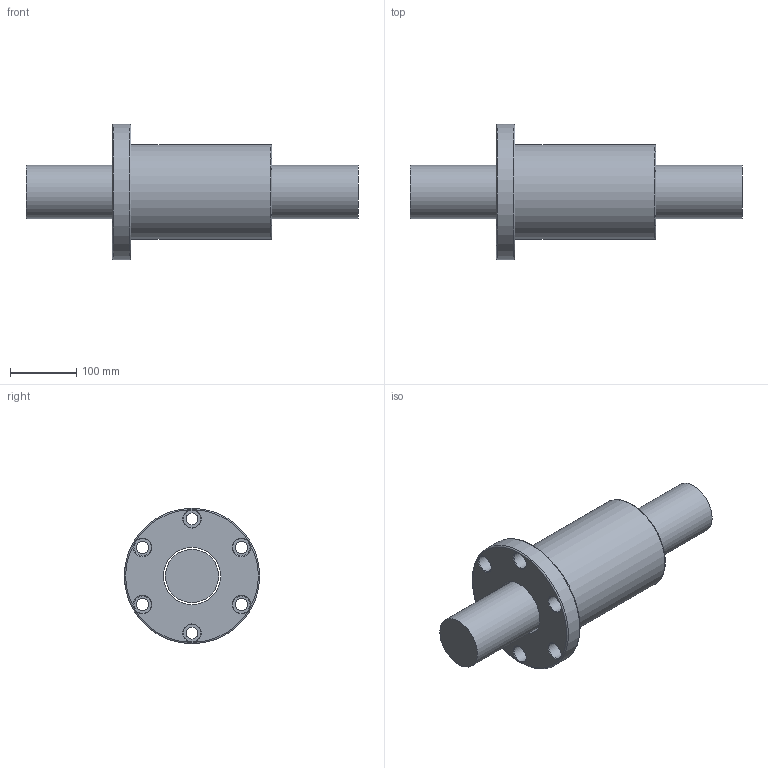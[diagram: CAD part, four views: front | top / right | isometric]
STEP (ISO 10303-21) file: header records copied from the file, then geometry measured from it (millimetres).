
FILE_DESCRIPTION (( 'STEP AP203' ), '1' );
FILE_NAME ('SFV08020N-7.6.step', '2024-05-20T03:40:51', ( '' ), ( '' ), 'SwSTEP 2.0', 'SolidWorks 2022', '' );
FILE_SCHEMA (( 'CONFIG_CONTROL_DESIGN' ));
Length unit declared in the file: millimetre
Products named in the file (1): SFV08020N-7.6
Bounding box: 500 x 204 x 204 mm (x, y, z)
Volume: 5360193.5 mm3; surface area: 375691 mm2
Topology: 2 solids, 2 shells, 57 faces, 128 edges, 82 vertices
Faces by surface type: cylinder 24, cone 13, plane 12, bspline 5, torus 3
Full cylindrical faces by diameter (mm): 4 x1, 7 x6, 18 x6, 26 x6, 80 x1, 86.1 x1, 143 x1, 204 x1
Entity records: 3292 total; most frequent: CARTESIAN_POINT 2292, DIRECTION 194, ORIENTED_EDGE 128, EDGE_LOOP 108, AXIS2_PLACEMENT_3D 96, FACE_OUTER_BOUND 72, EDGE_CURVE 64, VERTEX_POINT 60
